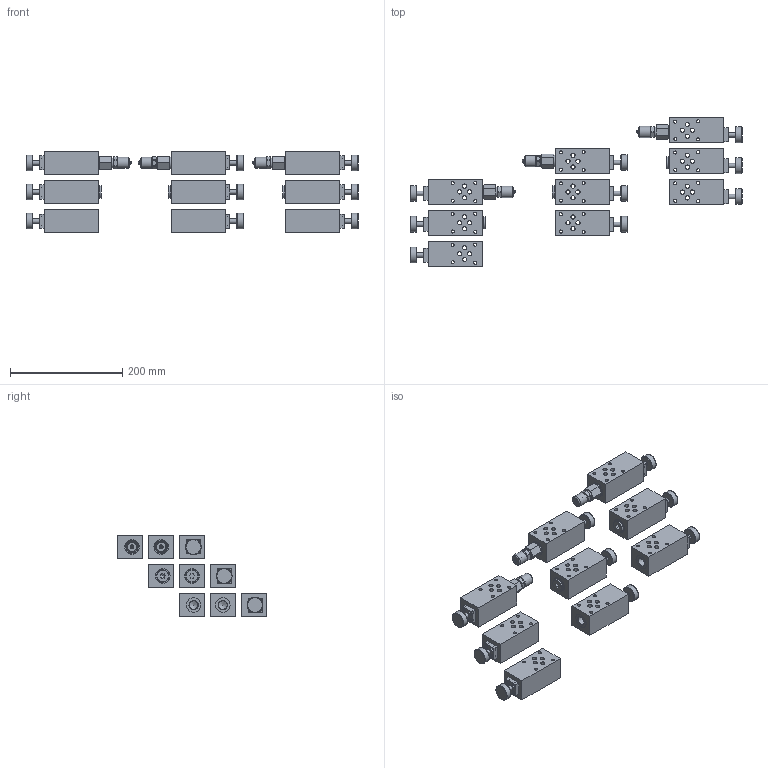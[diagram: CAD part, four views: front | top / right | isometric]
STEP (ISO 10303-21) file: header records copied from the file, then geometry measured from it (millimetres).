
FILE_DESCRIPTION(('Bauteilbeschreibung','HiCAD-Model','HiCAD-STEP-TRANSLATION','Bauteilbeschreibung'),'2;1');
FILE_NAME('C:/_EIGENE_DATEN/DXF_STEP/AAH_6.STP','2008-09-17T14:20:44+00:00',('Konstrukteur'),('Konstrukteur Firma GmbH'),' HiCAD neXt 2007, Step 3.1.1212.3C ','HiCAD neXt 2007','confidential');
FILE_SCHEMA(('AUTOMOTIVE_DESIGN { 1 2 10303 214 0 1 1 1 }'));
Length unit declared in the file: millimetre
Products named in the file (148): AAH_6; AAHA6_O; AEE027DC; AA89BD89; AA89BD890; DIN_13; DIN_76; DIN076; DIN_ISO_228_1; A2642943; IN6KTM4; IN6KTM40; IN6KTM41; AAHB6_O; EEE8C3D7; A3EBB0D5; A3EBB0D50; DIN013; DIN0760; DIN0761; DIN0ISO022801; A26429430; IN6KTM42; IN6KTM43; IN6KTM44; AAHP6_O; AE296436; EA0452D6; EA0452D60; DIN0130; DIN0762; DIN0763; DIN0ISO0228010; A26429431; IN6KTM45; IN6KTM46; IN6KTM47; AAHA6_V; F61F0FF3; AA89BD891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
Assembly tree (147 placements, depth 6):
  AAH_6
    AAHA6_O
      AEE027DC
        AA89BD89
        AA89BD890
          DIN_13
          DIN_76
          DIN076
          DIN_ISO_228_1
        A2642943
        IN6KTM4
          IN6KTM40
          IN6KTM41
    AAHB6_O
      EEE8C3D7
        A3EBB0D5
        A3EBB0D50
          DIN013
          DIN0760
          DIN0761
          DIN0ISO022801
        A26429430
        IN6KTM42
          IN6KTM43
          IN6KTM44
    AAHP6_O
      AE296436
        EA0452D6
        EA0452D60
          DIN0130
          DIN0762
          DIN0763
          DIN0ISO0228010
        A26429431
        IN6KTM45
          IN6KTM46
          IN6KTM47
    AAHA6_V
      F61F0FF3
        AA89BD891
        AA89BD892
          DIN0131
          DIN0764
          DIN0765
          DIN0ISO0228011
        A26429432
        IN6KTM48
          IN6KTM49
          IN6KTM410
        A30D6AB5
        A89DA55C
        A89DA55C0
          DIN0ISO0228012
    AAHB6_V
      C0B2EE90
        A3EBB0D51
        A3EBB0D52
          DIN0132
          DIN0766
          DIN0767
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Bounding box: 592.6 x 265 x 146 mm (x, y, z)
Volume: 1675214.3 mm3; surface area: 379712 mm2
Topology: 99 solids, 99 shells, 1302 faces, 3767 edges, 2752 vertices
Faces by surface type: plane 555, cylinder 489, cone 243, torus 15
Full cylindrical faces by diameter (mm): 3 x3, 3.141 x36, 4 x36, 4.5 x36, 5.5 x36, 7 x21, 7.5 x36, 8 x60, 8.5 x18, 10 x18, 11.2 x3, 11.445 x6, 12.5 x36, 13 x6, 13.157 x6, 13.546 x12, 14.6 x3, 14.95 x6, 15.25 x18, 16 x9, 16.662 x24, 17 x3, 18 x3, 19 x3, 19.05 x3, 20 x3, 21.8 x3, 22 x6, 26 x9, 28 x9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
Entity records: 44916 total; most frequent: CARTESIAN_POINT 10581, DIRECTION 7500, ORIENTED_EDGE 5262, AXIS2_PLACEMENT_3D 3417, EDGE_CURVE 2631, EDGE_LOOP 2406, VERTEX_POINT 2322, CIRCLE 1821
